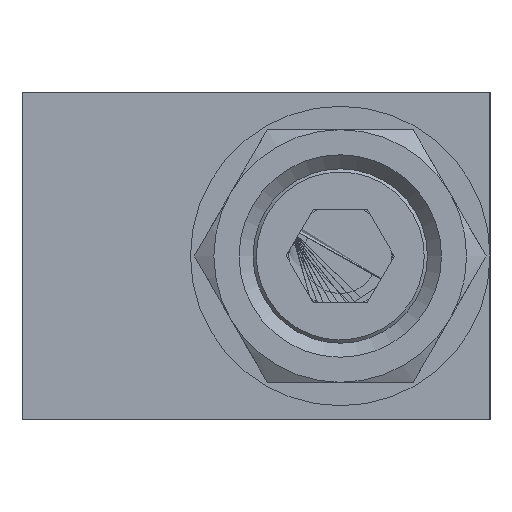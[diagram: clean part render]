
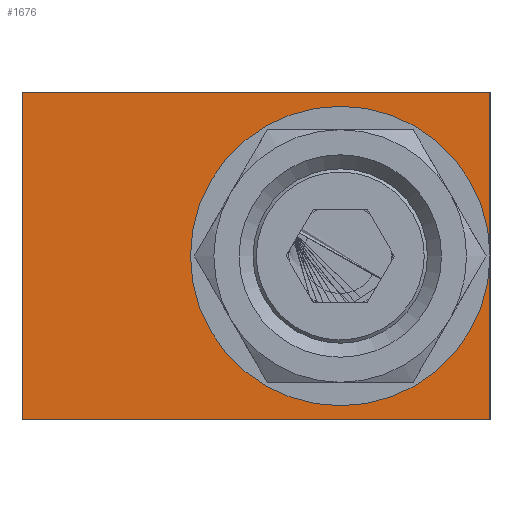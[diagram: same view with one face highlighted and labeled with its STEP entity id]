
A CAD part, left-side view. The second image highlights one B-rep face of the part: STEP entity #1676.
In plain terms, the highlighted planar face has unit normal (-1, 0, 0).
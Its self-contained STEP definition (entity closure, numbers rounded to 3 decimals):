
#125=PLANE('',#1833);
#196=FACE_OUTER_BOUND('',#294,.T.);
#294=EDGE_LOOP('',(#1128,#1129,#1130,#1131,#1132,#1133,#1134));
#390=CIRCLE('',#1806,16.);
#409=CIRCLE('',#1834,16.);
#501=LINE('',#2518,#572);
#505=LINE('',#2529,#576);
#507=LINE('',#2532,#578);
#512=LINE('',#2541,#583);
#513=LINE('',#2551,#584);
#572=VECTOR('',#2051,10.);
#576=VECTOR('',#2061,10.);
#578=VECTOR('',#2063,10.);
#583=VECTOR('',#2070,10.);
#584=VECTOR('',#2081,10.);
#638=VERTEX_POINT('',#2477);
#640=VERTEX_POINT('',#2480);
#653=VERTEX_POINT('',#2516);
#654=VERTEX_POINT('',#2517);
#659=VERTEX_POINT('',#2531);
#662=VERTEX_POINT('',#2539);
#817=EDGE_CURVE('',#640,#638,#390,.T.);
#834=EDGE_CURVE('',#653,#654,#501,.T.);
#840=EDGE_CURVE('',#653,#640,#505,.T.);
#842=EDGE_CURVE('',#640,#659,#507,.T.);
#847=EDGE_CURVE('',#662,#654,#512,.T.);
#852=EDGE_CURVE('',#662,#659,#513,.T.);
#853=EDGE_CURVE('',#638,#640,#409,.T.);
#1128=ORIENTED_EDGE('',*,*,#834,.T.);
#1129=ORIENTED_EDGE('',*,*,#847,.F.);
#1130=ORIENTED_EDGE('',*,*,#852,.T.);
#1131=ORIENTED_EDGE('',*,*,#842,.F.);
#1132=ORIENTED_EDGE('',*,*,#817,.T.);
#1133=ORIENTED_EDGE('',*,*,#853,.T.);
#1134=ORIENTED_EDGE('',*,*,#840,.F.);
#1676=ADVANCED_FACE('',(#196),#125,.T.);
#1806=AXIS2_PLACEMENT_3D('',#2481,#2009,#2010);
#1833=AXIS2_PLACEMENT_3D('',#2550,#2079,#2080);
#1834=AXIS2_PLACEMENT_3D('',#2552,#2082,#2083);
#2009=DIRECTION('center_axis',(1.,0.,0.));
#2010=DIRECTION('ref_axis',(0.,0.,1.));
#2051=DIRECTION('',(0.,1.,0.));
#2061=DIRECTION('',(0.,0.,-1.));
#2063=DIRECTION('',(0.,0.,-1.));
#2070=DIRECTION('',(0.,0.,1.));
#2079=DIRECTION('center_axis',(-1.,0.,0.));
#2080=DIRECTION('ref_axis',(0.,0.,1.));
#2081=DIRECTION('',(0.,-1.,0.));
#2082=DIRECTION('center_axis',(1.,0.,0.));
#2083=DIRECTION('ref_axis',(0.,0.,1.));
#2477=CARTESIAN_POINT('',(-40.,-9.,-16.));
#2480=CARTESIAN_POINT('',(-40.,-25.,0.));
#2481=CARTESIAN_POINT('Origin',(-40.,-9.,0.));
#2516=CARTESIAN_POINT('',(-40.,-25.,17.5));
#2517=CARTESIAN_POINT('',(-40.,25.,17.5));
#2518=CARTESIAN_POINT('',(-40.,25.,17.5));
#2529=CARTESIAN_POINT('',(-40.,-25.,0.));
#2531=CARTESIAN_POINT('',(-40.,-25.,-17.5));
#2532=CARTESIAN_POINT('',(-40.,-25.,0.));
#2539=CARTESIAN_POINT('',(-40.,25.,-17.5));
#2541=CARTESIAN_POINT('',(-40.,25.,0.));
#2550=CARTESIAN_POINT('Origin',(-40.,-25.,0.));
#2551=CARTESIAN_POINT('',(-40.,25.,-17.5));
#2552=CARTESIAN_POINT('Origin',(-40.,-9.,0.));
